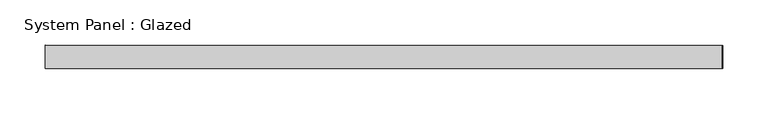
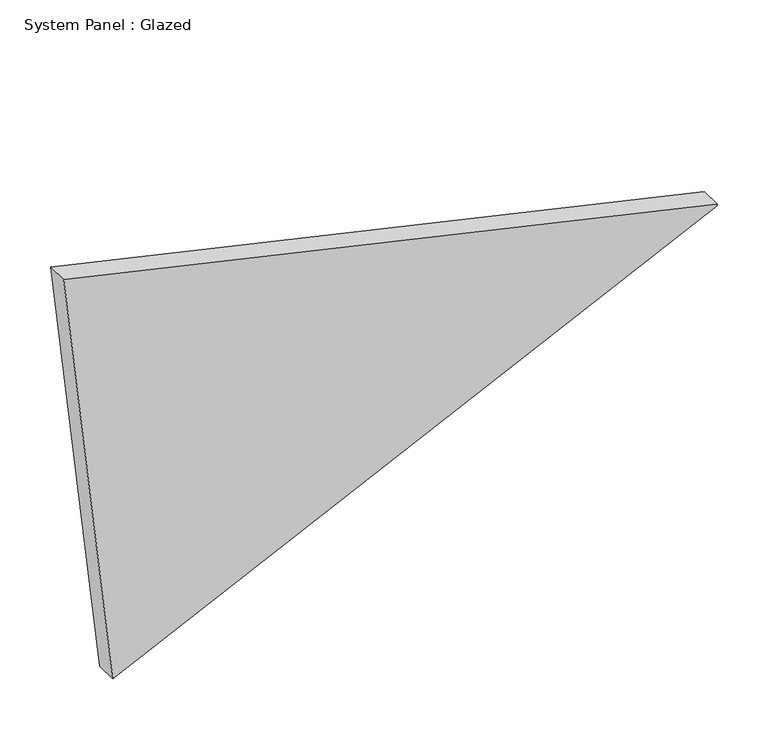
"""IFC4 building model written with IfcOpenShell, lengths in millimetres: plate geometry, System Panel : Glazed."""

from ifc_helpers import new_model, si_unit, frame, origin, place, context, project, spatial, polyline, outline, extrude, source, transform, mapped, element, save


def system_panel_glazed_57e85f98(model_context):
    return source(origin(), model_context, "Body", "SweptSolid", [
        extrude(outline(polyline([(0.0, -316.1965354), (329.140808, 371.9865473), (330.8067939, 371.8007484), (500.2473012, -371.9865473), (0.0, -316.1965354)])), frame((0.0, -44.45, 0.0), z_axis=(0.0, 1.0, 0.0), x_axis=(0.0, 0.0, 1.0)), (0.0, 0.0, 1.0), 25.4),
    ])


if __name__ == "__main__":
    model = new_model("IFC4")
    model_context = context("Model", 3, world=origin())
    ifc_project = project(units=[si_unit("LENGTHUNIT", "METRE", prefix="MILLI")], contexts=[model_context])
    site = spatial("IfcSite", under=ifc_project)
    building = spatial("IfcBuilding", under=site)
    placement = place(None, origin())
    system_panel_glazed_shape = system_panel_glazed_57e85f98(model_context)
    element("IfcPlate", 1, ObjectType="System Panel : Glazed", at=placement, inside=building, context=model_context, shape_type="MappedRepresentation", body=[
        mapped(system_panel_glazed_shape, transform((0.0, 0.0, 0.0), x_axis=(1.0, 0.0, 0.0), y_axis=(0.0, 1.0, 0.0), z_axis=(0.0, 0.0, 1.0))),
    ])
    save(model, "model.ifc")
